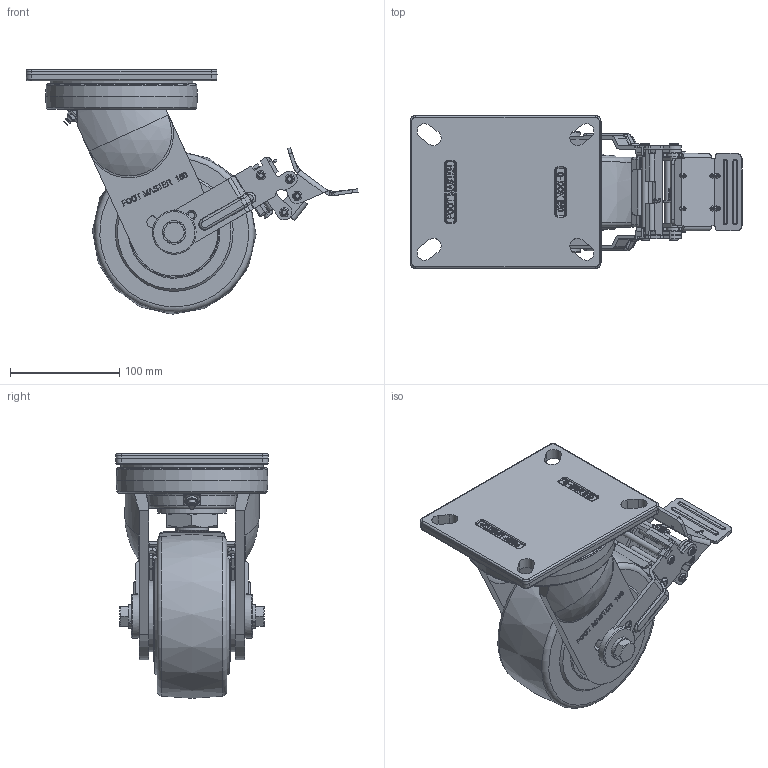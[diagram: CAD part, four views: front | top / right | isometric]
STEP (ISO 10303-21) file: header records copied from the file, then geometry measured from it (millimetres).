
FILE_DESCRIPTION(/* description */ (''),/* implementation_level */ '2;1');
FILE_NAME(/* name */ 'Y:\1.기술연구소\2.연구개발 진행중\133.고하중캐스터 브레이크 타입 변경건_2025.11.03\1.도면\4.홈페이지용 도면\01. 3D\GXT-150 SERIES\GXT-150-STEP\GXT-150-BSF-HUD-TB.stp',/* time_stamp */ '2026-07-22T13:05:07+09:00',/* author */ ('장용하'),/* organization */ (''),/* preprocessor_version */ 'ST-DEVELOPER v18.1',/* originating_system */ 'Autodesk Inventor 2021',/* authorisation */ '');
FILE_SCHEMA (('CONFIG_CONTROL_DESIGN'));
Products named in the file (1): GXT-150-BSF-HUD-TB
Bounding box: 304.17 x 140 x 223.97 mm (x, y, z)
Volume: 2252751 mm3; surface area: 244961.1 mm2
Topology: 1 solids, 1 shells, 1731 faces, 4635 edges, 2992 vertices
Faces by surface type: plane 708, bspline 479, cylinder 427, torus 72, cone 33, sphere 12
Full cylindrical faces by diameter (mm): 2 x7, 4 x6, 6.2 x14, 6.8 x4, 8 x6, 8.5 x6, 12 x2, 12.5 x2, 13 x2, 30 x1, 40 x2, 62.5 x1, 65 x2, 131.086 x1
Entity records: 59974 total; most frequent: CARTESIAN_POINT 18780, ORIENTED_EDGE 9266, DIRECTION 7506, EDGE_CURVE 4633, VERTEX_POINT 2992, AXIS2_PLACEMENT_3D 2551, LINE 2404, VECTOR 2404
